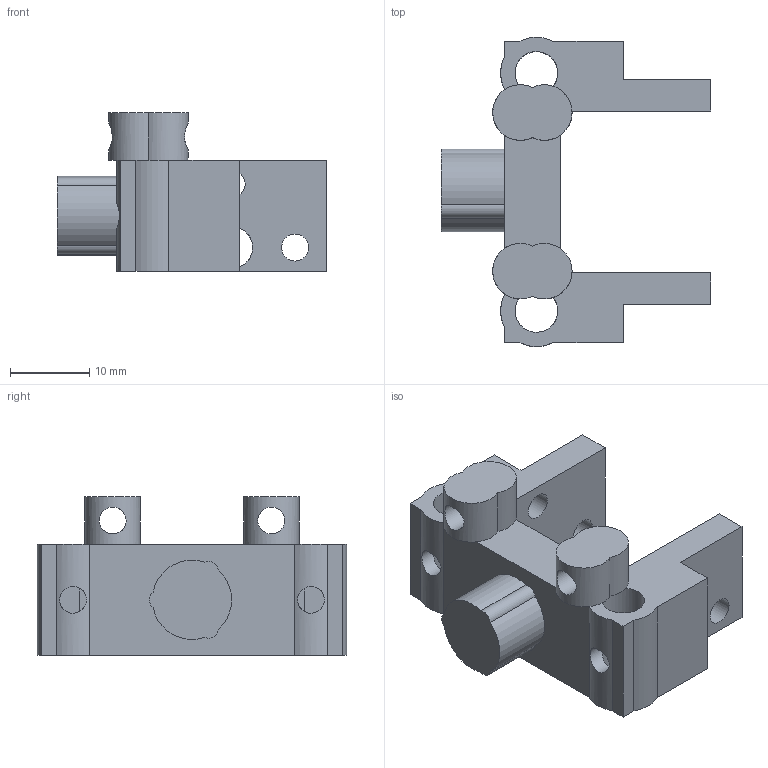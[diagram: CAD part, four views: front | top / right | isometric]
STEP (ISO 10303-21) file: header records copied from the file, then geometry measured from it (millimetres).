
FILE_DESCRIPTION(('Open CASCADE Model'),'2;1');
FILE_NAME('F09-CAR','2026-11-15T22:32:11',('Author'),('Open CASCADE'), 'Open CASCADE STEP processor 8.0','build123d','Unknown');
FILE_SCHEMA(('AUTOMOTIVE_DESIGN { 1 0 10303 214 1 1 1 1 }'));
Length unit declared in the file: millimetre
Products named in the file (1): F09-CAR
Bounding box: 34 x 39 x 20 mm (x, y, z)
Volume: 6983.5 mm3; surface area: 4915.6 mm2
Topology: 1 solids, 1 shells, 73 faces, 212 edges, 136 vertices
Faces by surface type: plane 43, cylinder 30
Full cylindrical faces by diameter (mm): 3.4 x12, 5.3 x2, 5.4 x2
Entity records: 9473 total; most frequent: CARTESIAN_POINT 5438, DIRECTION 695, ORIENTED_EDGE 424, PCURVE 424, DEFINITIONAL_REPRESENTATION 424, LINE 344, VECTOR 344, EDGE_CURVE 212
